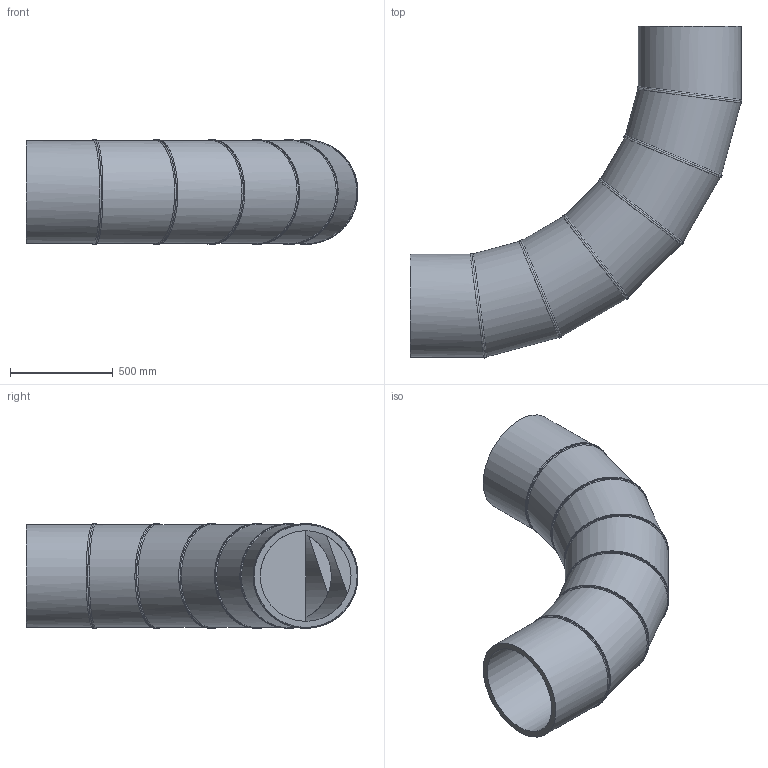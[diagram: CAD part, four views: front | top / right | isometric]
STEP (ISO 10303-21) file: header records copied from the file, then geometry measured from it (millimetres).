
FILE_DESCRIPTION(/* description */ ('Unknown'),/* implementation_level */ '2;1');
FILE_NAME(/* name */ 'Curva 90° a settore DE500 SDR17',/* time_stamp */ '2022-07-27T09:43:19+02:00',/* author */ ('Unknown'),/* organization */ ('Unknown'),/* preprocessor_version */ 'ST-DEVELOPER v18.102',/* originating_system */ 'Solid Edge',/* authorisation */ 'Unknown');
FILE_SCHEMA (('AUTOMOTIVE_DESIGN {1 0 10303 214 3 1 1}'));
Length unit declared in the file: millimetre
Products named in the file (3): Curva 90° a settore DE500 SDR17; Tubo x Gomito 90° DE500 SDR17 - 2; Tubo x Gomito 90° DE500 SDR17 - 1
Assembly tree (7 placements, depth 2):
  Curva 90° a settore DE500 SDR17
    Tubo x Gomito 90° DE500 SDR17 - 2  x5
    Tubo x Gomito 90° DE500 SDR17 - 1  x2
Bounding box: 1611.97 x 1611.97 x 507.98 mm (x, y, z)
Volume: 97893769.7 mm3; surface area: 7267663.2 mm2
Topology: 7 solids, 7 shells, 64 faces, 143 edges, 93 vertices
Faces by surface type: cylinder 38, plane 14, bspline 12
Full cylindrical faces by diameter (mm): 440.6 x7, 500 x7
Entity records: 2504 total; most frequent: CARTESIAN_POINT 2081, DIRECTION 78, ORIENTED_EDGE 52, AXIS2_PLACEMENT_3D 39, EDGE_LOOP 28, FACE_BOUND 28, EDGE_CURVE 26, VERTEX_POINT 20
